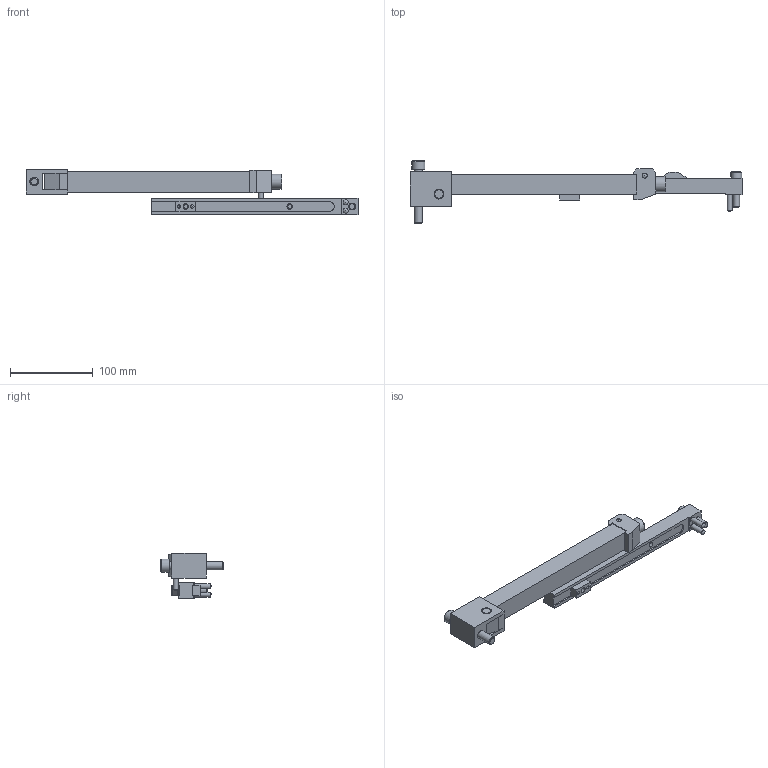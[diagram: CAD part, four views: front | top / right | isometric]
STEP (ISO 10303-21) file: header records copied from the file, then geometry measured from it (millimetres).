
FILE_DESCRIPTION( ( 'STEP AP214' ), '1' );
FILE_NAME( 'p:/temp/worker_5/temp/exporttempdir_3596_314_elZTB/format_0/BOX250FIX.stp', '2021-02-11T19:31:13', ( 'License CC BY-ND 4.0' ), ( 'CADENAS' ), ' ', 'PARTsolutions', ' ' );
FILE_SCHEMA( ( 'AUTOMOTIVE_DESIGN { 1 0 10303 214 1 1 1 1 }' ) );
Length unit declared in the file: millimetre
Products named in the file (17): BOX250FIX; _ZH90/3_head; _ZH90/3_screw1; _ZH90/3_hand; _ZH90/3_screw2; _ZH90/3_he; _ZH90/3_screw3; _ZH90/3_stift1; _ZH90/3_stift2; _ZH90/04_body; _M8-5; _ST2; _ZH90/04_foot3; _M6-3; _M6-4; _ZH90/04_foot4; _ST1
Assembly tree (18 placements, depth 2):
  BOX250FIX
    _ZH90/3_head
    _ZH90/3_screw1
    _ZH90/3_hand
    _ZH90/3_screw2
    _ZH90/3_he
    _ZH90/3_screw3
    _ZH90/3_stift1
    _ZH90/3_stift2
    _ZH90/04_body
    _M8-5
    _ST2  x2
    _ZH90/04_foot3
    _M6-3
    _M6-4
    _ZH90/04_foot4
    _ST1  x2
Bounding box: 401 x 75 x 55 mm (x, y, z)
Volume: 303902.3 mm3; surface area: 88367.7 mm2
Topology: 18 solids, 18 shells, 195 faces, 460 edges, 301 vertices
Faces by surface type: plane 128, cylinder 39, cone 18, sphere 10
Full cylindrical faces by diameter (mm): 4 x6, 4.134 x1, 5 x1, 6 x8, 6.6 x4, 8 x1, 8.4 x1, 10 x2, 10.106 x1, 10.5 x1, 11 x2, 12 x5, 13 x2, 16 x1, 18 x1
Entity records: 6862 total; most frequent: CARTESIAN_POINT 916, DIRECTION 872, ORIENTED_EDGE 730, EDGE_CURVE 365, AXIS2_PLACEMENT_3D 302, EDGE_LOOP 288, VERTEX_POINT 278, LINE 268
